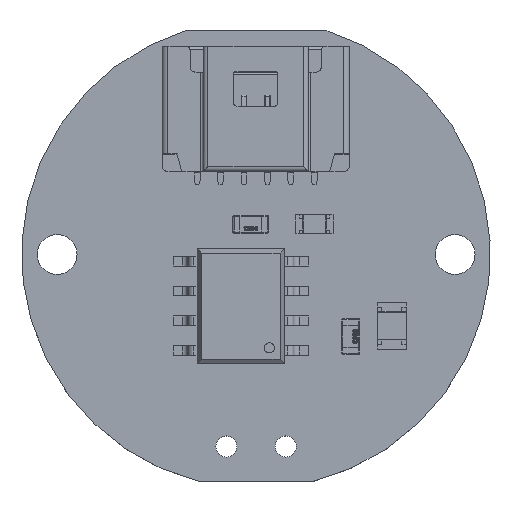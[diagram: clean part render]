
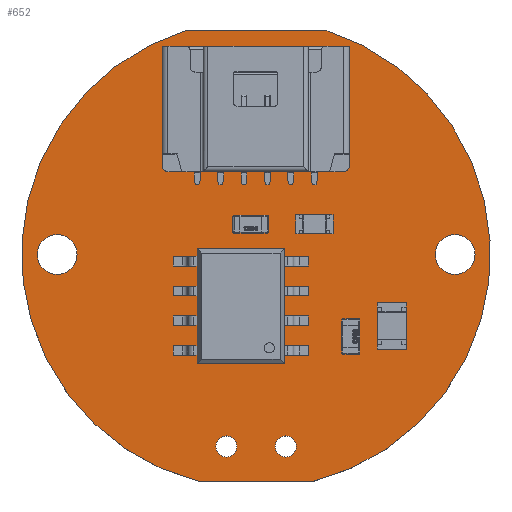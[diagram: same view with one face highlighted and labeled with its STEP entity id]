
A CAD part, top view. The second image highlights one B-rep face of the part: STEP entity #652.
In plain terms, the highlighted planar face has unit normal (0, 0, 1).
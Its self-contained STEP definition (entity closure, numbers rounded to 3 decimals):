
#103 = VERTEX_POINT('',#104);
#104 = CARTESIAN_POINT('',(-2.424,-9.703,0.));
#110 = EDGE_CURVE('',#103,#111,#113,.T.);
#111 = VERTEX_POINT('',#112);
#112 = CARTESIAN_POINT('',(-2.964,9.582,0.));
#113 = CIRCLE('',#114,10.014);
#114 = AXIS2_PLACEMENT_3D('',#115,#116,#117);
#115 = CARTESIAN_POINT('',(-0.006,0.015,
    0.));
#116 = DIRECTION('',(0.,0.,-1.));
#117 = DIRECTION('',(-0.242,-0.97,0.));
#143 = EDGE_CURVE('',#111,#144,#146,.T.);
#144 = VERTEX_POINT('',#145);
#145 = CARTESIAN_POINT('',(-2.944,9.585,0.));
#146 = CIRCLE('',#147,0.064);
#147 = AXIS2_PLACEMENT_3D('',#148,#149,#150);
#148 = CARTESIAN_POINT('',(-2.945,9.521,0.));
#149 = DIRECTION('',(0.,0.,-1.));
#150 = DIRECTION('',(-0.296,0.955,0.));
#176 = EDGE_CURVE('',#144,#177,#179,.T.);
#177 = VERTEX_POINT('',#178);
#178 = CARTESIAN_POINT('',(-2.921,9.589,0.));
#179 = CIRCLE('',#180,0.064);
#180 = AXIS2_PLACEMENT_3D('',#181,#182,#183);
#181 = CARTESIAN_POINT('',(-2.921,9.525,0.));
#182 = DIRECTION('',(0.,0.,-1.));
#183 = DIRECTION('',(-0.356,0.934,0.));
#209 = EDGE_CURVE('',#177,#210,#212,.T.);
#210 = VERTEX_POINT('',#211);
#211 = CARTESIAN_POINT('',(2.896,9.589,0.));
#212 = LINE('',#213,#214);
#213 = CARTESIAN_POINT('',(-2.921,9.589,0.));
#214 = VECTOR('',#215,1.);
#215 = DIRECTION('',(1.,0.,0.));
#240 = EDGE_CURVE('',#210,#241,#243,.T.);
#241 = VERTEX_POINT('',#242);
#242 = CARTESIAN_POINT('',(2.909,9.587,0.));
#243 = CIRCLE('',#244,0.064);
#244 = AXIS2_PLACEMENT_3D('',#245,#246,#247);
#245 = CARTESIAN_POINT('',(2.896,9.525,0.));
#246 = DIRECTION('',(0.,0.,-1.));
#247 = DIRECTION('',(0.,1.,0.));
#273 = EDGE_CURVE('',#241,#274,#276,.T.);
#274 = VERTEX_POINT('',#275);
#275 = CARTESIAN_POINT('',(2.94,9.586,0.));
#276 = CIRCLE('',#277,0.064);
#277 = AXIS2_PLACEMENT_3D('',#278,#279,#280);
#278 = CARTESIAN_POINT('',(2.921,9.525,0.));
#279 = DIRECTION('',(0.,0.,-1.));
#280 = DIRECTION('',(-0.182,0.983,0.));
#306 = EDGE_CURVE('',#274,#307,#309,.T.);
#307 = VERTEX_POINT('',#308);
#308 = CARTESIAN_POINT('',(2.401,-9.706,0.));
#309 = CIRCLE('',#310,10.014);
#310 = AXIS2_PLACEMENT_3D('',#311,#312,#313);
#311 = CARTESIAN_POINT('',(-0.006,0.015,
    0.));
#312 = DIRECTION('',(0.,0.,-1.));
#313 = DIRECTION('',(0.294,0.956,0.));
#339 = EDGE_CURVE('',#307,#340,#342,.T.);
#340 = VERTEX_POINT('',#341);
#341 = CARTESIAN_POINT('',(2.395,-9.707,0.));
#342 = CIRCLE('',#343,0.065);
#343 = AXIS2_PLACEMENT_3D('',#344,#345,#346);
#344 = CARTESIAN_POINT('',(2.385,-9.642,0.));
#345 = DIRECTION('',(0.,0.,-1.));
#346 = DIRECTION('',(0.24,-0.971,0.));
#372 = EDGE_CURVE('',#340,#373,#375,.T.);
#373 = VERTEX_POINT('',#374);
#374 = CARTESIAN_POINT('',(2.362,-9.716,0.));
#375 = CIRCLE('',#376,0.064);
#376 = AXIS2_PLACEMENT_3D('',#377,#378,#379);
#377 = CARTESIAN_POINT('',(2.362,-9.652,0.));
#378 = DIRECTION('',(0.,0.,-1.));
#379 = DIRECTION('',(0.518,-0.856,0.));
#405 = EDGE_CURVE('',#373,#406,#408,.T.);
#406 = VERTEX_POINT('',#407);
#407 = CARTESIAN_POINT('',(-2.384,-9.716,0.));
#408 = LINE('',#409,#410);
#409 = CARTESIAN_POINT('',(2.362,-9.716,0.));
#410 = VECTOR('',#411,1.);
#411 = DIRECTION('',(-1.,0.,0.));
#436 = EDGE_CURVE('',#406,#437,#439,.T.);
#437 = VERTEX_POINT('',#438);
#438 = CARTESIAN_POINT('',(-2.422,-9.703,0.));
#439 = CIRCLE('',#440,0.064);
#440 = AXIS2_PLACEMENT_3D('',#441,#442,#443);
#441 = CARTESIAN_POINT('',(-2.384,-9.652,0.));
#442 = DIRECTION('',(0.,0.,-1.));
#443 = DIRECTION('',(0.,-1.,0.));
#469 = EDGE_CURVE('',#437,#103,#470,.T.);
#470 = CIRCLE('',#471,0.098);
#471 = AXIS2_PLACEMENT_3D('',#472,#473,#474);
#472 = CARTESIAN_POINT('',(-2.402,-9.607,0.));
#473 = DIRECTION('',(0.,0.,-1.));
#474 = DIRECTION('',(-0.203,-0.979,0.));
#495 = VERTEX_POINT('',#496);
#496 = CARTESIAN_POINT('',(-0.82,-8.204,0.));
#502 = EDGE_CURVE('',#495,#495,#503,.T.);
#503 = CIRCLE('',#504,0.45);
#504 = AXIS2_PLACEMENT_3D('',#505,#506,#507);
#505 = CARTESIAN_POINT('',(-1.27,-8.204,0.));
#506 = DIRECTION('',(0.,0.,1.));
#507 = DIRECTION('',(1.,0.,0.));
#528 = VERTEX_POINT('',#529);
#529 = CARTESIAN_POINT('',(-7.65,0.,0.));
#535 = EDGE_CURVE('',#528,#528,#536,.T.);
#536 = CIRCLE('',#537,0.85);
#537 = AXIS2_PLACEMENT_3D('',#538,#539,#540);
#538 = CARTESIAN_POINT('',(-8.5,0.,0.));
#539 = DIRECTION('',(0.,0.,1.));
#540 = DIRECTION('',(1.,0.,0.));
#561 = VERTEX_POINT('',#562);
#562 = CARTESIAN_POINT('',(1.72,-8.204,0.));
#568 = EDGE_CURVE('',#561,#561,#569,.T.);
#569 = CIRCLE('',#570,0.45);
#570 = AXIS2_PLACEMENT_3D('',#571,#572,#573);
#571 = CARTESIAN_POINT('',(1.27,-8.204,0.));
#572 = DIRECTION('',(0.,0.,1.));
#573 = DIRECTION('',(1.,0.,0.));
#594 = VERTEX_POINT('',#595);
#595 = CARTESIAN_POINT('',(9.35,0.,0.));
#601 = EDGE_CURVE('',#594,#594,#602,.T.);
#602 = CIRCLE('',#603,0.85);
#603 = AXIS2_PLACEMENT_3D('',#604,#605,#606);
#604 = CARTESIAN_POINT('',(8.5,0.,0.));
#605 = DIRECTION('',(0.,0.,1.));
#606 = DIRECTION('',(1.,0.,0.));
#652 = ADVANCED_FACE('',(#653,#667,#670,#673,#676),#679,.T.);
#653 = FACE_BOUND('',#654,.F.);
#654 = EDGE_LOOP('',(#655,#656,#657,#658,#659,#660,#661,#662,#663,#664,
    #665,#666));
#655 = ORIENTED_EDGE('',*,*,#110,.T.);
#656 = ORIENTED_EDGE('',*,*,#143,.T.);
#657 = ORIENTED_EDGE('',*,*,#176,.T.);
#658 = ORIENTED_EDGE('',*,*,#209,.T.);
#659 = ORIENTED_EDGE('',*,*,#240,.T.);
#660 = ORIENTED_EDGE('',*,*,#273,.T.);
#661 = ORIENTED_EDGE('',*,*,#306,.T.);
#662 = ORIENTED_EDGE('',*,*,#339,.T.);
#663 = ORIENTED_EDGE('',*,*,#372,.T.);
#664 = ORIENTED_EDGE('',*,*,#405,.T.);
#665 = ORIENTED_EDGE('',*,*,#436,.T.);
#666 = ORIENTED_EDGE('',*,*,#469,.T.);
#667 = FACE_BOUND('',#668,.T.);
#668 = EDGE_LOOP('',(#669));
#669 = ORIENTED_EDGE('',*,*,#502,.F.);
#670 = FACE_BOUND('',#671,.T.);
#671 = EDGE_LOOP('',(#672));
#672 = ORIENTED_EDGE('',*,*,#535,.F.);
#673 = FACE_BOUND('',#674,.T.);
#674 = EDGE_LOOP('',(#675));
#675 = ORIENTED_EDGE('',*,*,#568,.F.);
#676 = FACE_BOUND('',#677,.T.);
#677 = EDGE_LOOP('',(#678));
#678 = ORIENTED_EDGE('',*,*,#601,.F.);
#679 = PLANE('',#680);
#680 = AXIS2_PLACEMENT_3D('',#681,#682,#683);
#681 = CARTESIAN_POINT('',(-2.424,-9.703,0.));
#682 = DIRECTION('',(0.,0.,1.));
#683 = DIRECTION('',(1.,0.,0.));
